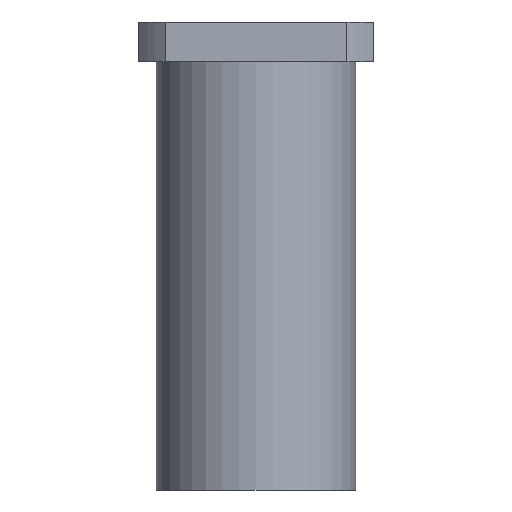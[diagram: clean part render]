
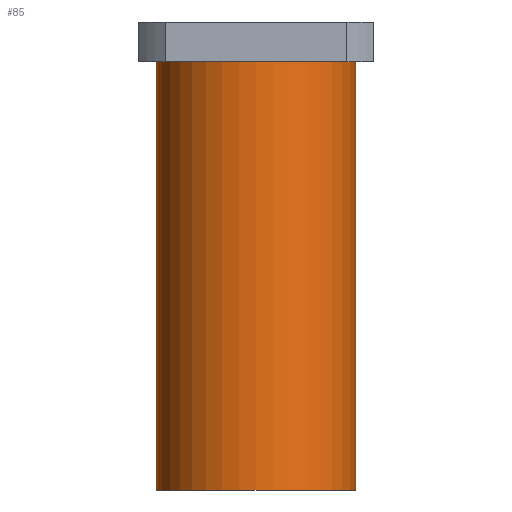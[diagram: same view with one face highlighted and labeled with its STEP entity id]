
A CAD part, front view. The second image highlights one B-rep face of the part: STEP entity #85.
In plain terms, the highlighted cylindrical face has radius 45 mm (diameter 90 mm), a partial arc.
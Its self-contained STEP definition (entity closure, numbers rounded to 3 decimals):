
#44=CARTESIAN_POINT('',(0.0,0.0,0.0));
#45=DIRECTION('',(0.0,0.0,1.0));
#46=DIRECTION('',(-1.0,0.0,0.0));
#47=AXIS2_PLACEMENT_3D('',#44,#45,#46);
#48=CYLINDRICAL_SURFACE('',#47,45.0);
#49=CARTESIAN_POINT('',(-45.0,0.,0.0));
#50=VERTEX_POINT('',#49);
#51=CARTESIAN_POINT('',(-45.0,0.,193.0));
#52=VERTEX_POINT('',#51);
#53=CARTESIAN_POINT('',(-45.0,0.,0.0));
#54=DIRECTION('',(0.0,0.0,1.0));
#55=VECTOR('',#54,193.0);
#56=LINE('',#53,#55);
#57=EDGE_CURVE('',#50,#52,#56,.T.);
#58=ORIENTED_EDGE('',*,*,#57,.F.);
#59=CARTESIAN_POINT('',(45.0,0.,0.0));
#60=VERTEX_POINT('',#59);
#61=CARTESIAN_POINT('',(0.0,0.0,0.0));
#62=DIRECTION('',(0.0,0.0,-1.0));
#63=DIRECTION('',(-1.0,0.0,0.0));
#64=AXIS2_PLACEMENT_3D('',#61,#62,#63);
#65=CIRCLE('',#64,45.0);
#66=EDGE_CURVE('',#60,#50,#65,.T.);
#67=ORIENTED_EDGE('',*,*,#66,.F.);
#68=CARTESIAN_POINT('',(45.0,0.,193.0));
#69=VERTEX_POINT('',#68);
#70=CARTESIAN_POINT('',(45.0,0.,193.0));
#71=DIRECTION('',(0.0,0.0,-1.0));
#72=VECTOR('',#71,193.0);
#73=LINE('',#70,#72);
#74=EDGE_CURVE('',#69,#60,#73,.T.);
#75=ORIENTED_EDGE('',*,*,#74,.F.);
#76=CARTESIAN_POINT('',(0.0,0.0,193.0));
#77=DIRECTION('',(0.0,0.0,-1.0));
#78=DIRECTION('',(-1.0,0.0,0.0));
#79=AXIS2_PLACEMENT_3D('',#76,#77,#78);
#80=CIRCLE('',#79,45.0);
#81=EDGE_CURVE('',#69,#52,#80,.T.);
#82=ORIENTED_EDGE('',*,*,#81,.T.);
#83=EDGE_LOOP('',(#58,#67,#75,#82));
#84=FACE_OUTER_BOUND('',#83,.T.);
#85=ADVANCED_FACE('',(#84),#48,.T.);
